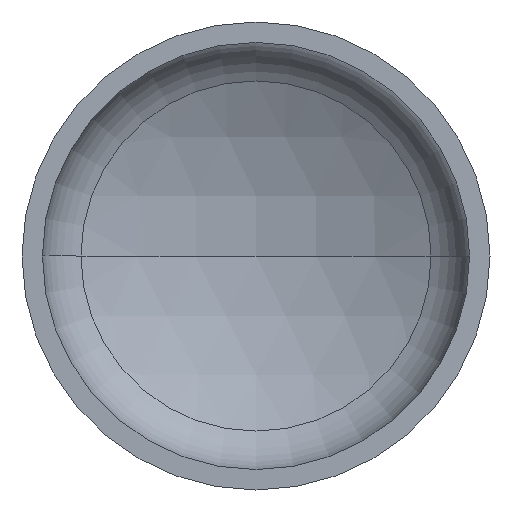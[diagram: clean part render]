
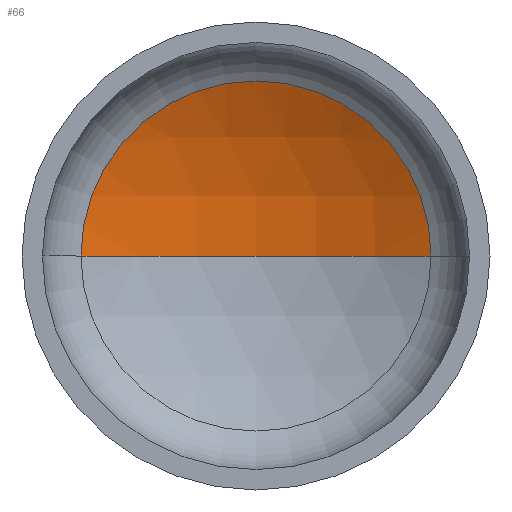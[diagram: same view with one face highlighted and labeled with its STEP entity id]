
A CAD part, front view. The second image highlights one B-rep face of the part: STEP entity #66.
In plain terms, the highlighted spherical face has radius 880 mm.
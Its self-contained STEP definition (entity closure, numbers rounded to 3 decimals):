
#7 = AXIS2_PLACEMENT_3D ( 'NONE', #123, #125, #227 ) ;
#9 = AXIS2_PLACEMENT_3D ( 'NONE', #127, #351, #172 ) ;
#14 = CARTESIAN_POINT ( 'NONE',  ( 411.493, 300.269, 0. ) ) ;
#15 = AXIS2_PLACEMENT_3D ( 'NONE', #375, #399, #397 ) ;
#33 = AXIS2_PLACEMENT_3D ( 'NONE', #287, #254, #283 ) ;
#66 = ADVANCED_FACE ( 'NONE', ( #263 ), #194, .F. ) ;
#76 = CIRCLE ( 'NONE', #15, 880. ) ;
#123 = CARTESIAN_POINT ( 'NONE',  ( 0., -477.595, 0. ) ) ;
#125 = DIRECTION ( 'NONE',  ( 0., 0., -1. ) ) ;
#127 = CARTESIAN_POINT ( 'NONE',  ( 0., 300.269, 0. ) ) ;
#138 = CARTESIAN_POINT ( 'NONE',  ( 0., 402.405, 0. ) ) ;
#154 = CARTESIAN_POINT ( 'NONE',  ( -411.493, 300.269, 0. ) ) ;
#156 = ORIENTED_EDGE ( 'NONE', *, *, #332, .T. ) ;
#158 = EDGE_LOOP ( 'NONE', ( #410, #238, #156 ) ) ;
#172 = DIRECTION ( 'NONE',  ( 1., 0., 0. ) ) ;
#194 = SPHERICAL_SURFACE ( 'NONE', #33, 880. ) ;
#220 = CIRCLE ( 'NONE', #9, 411.493 ) ;
#221 = VERTEX_POINT ( 'NONE', #14 ) ;
#227 = DIRECTION ( 'NONE',  ( -1., 0., 0. ) ) ;
#238 = ORIENTED_EDGE ( 'NONE', *, *, #337, .T. ) ;
#252 = VERTEX_POINT ( 'NONE', #154 ) ;
#254 = DIRECTION ( 'NONE',  ( 0., 0., -1. ) ) ;
#263 = FACE_OUTER_BOUND ( 'NONE', #158, .T. ) ;
#283 = DIRECTION ( 'NONE',  ( -1., 0., 0. ) ) ;
#287 = CARTESIAN_POINT ( 'NONE',  ( 0., -477.595, 0. ) ) ;
#289 = CIRCLE ( 'NONE', #7, 880. ) ;
#302 = EDGE_CURVE ( 'NONE', #327, #252, #76, .T. ) ;
#327 = VERTEX_POINT ( 'NONE', #138 ) ;
#332 = EDGE_CURVE ( 'NONE', #221, #252, #220, .T. ) ;
#337 = EDGE_CURVE ( 'NONE', #327, #221, #289, .T. ) ;
#351 = DIRECTION ( 'NONE',  ( 0., -1., 0. ) ) ;
#375 = CARTESIAN_POINT ( 'NONE',  ( 0., -477.595, 0. ) ) ;
#397 = DIRECTION ( 'NONE',  ( 1., 0., 0. ) ) ;
#399 = DIRECTION ( 'NONE',  ( 0., 0., 1. ) ) ;
#410 = ORIENTED_EDGE ( 'NONE', *, *, #302, .F. ) ;
